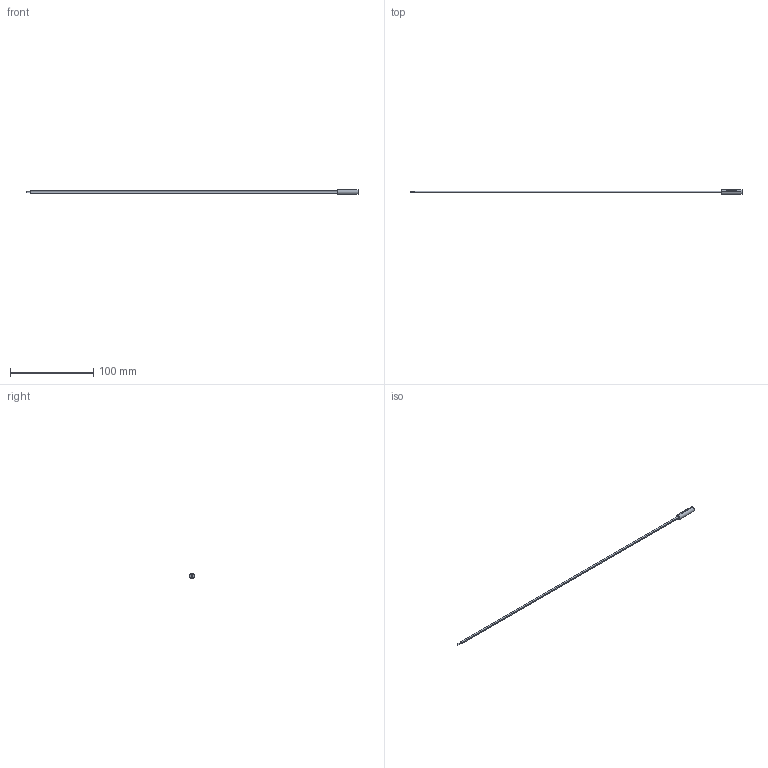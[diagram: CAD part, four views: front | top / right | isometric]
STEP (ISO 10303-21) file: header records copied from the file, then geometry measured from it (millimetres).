
FILE_DESCRIPTION (( 'STEP AP214' ), '1' );
FILE_NAME ('NTC 2381 641 46104 Thermistor Pipe_03 Vishay (RS).STEP', '2012-04-03T13:34:48', ( 'Vishay Intertechnology, Inc.' ), ( 'Vishay Intertechnology, Inc.' ), 'SwSTEP 2.0', 'SolidWorks 2012', '' );
FILE_SCHEMA (( 'AUTOMOTIVE_DESIGN' ));
Length unit declared in the file: millimetre
Products named in the file (1): NTC 2381 641 46104 Thermistor Pipe_03 Vishay (RS)
Bounding box: 400 x 6 x 6 mm (x, y, z)
Volume: 2017.6 mm3; surface area: 3829.6 mm2
Topology: 1 solids, 1 shells, 63 faces, 379 edges, 368 vertices
Faces by surface type: cylinder 56, plane 7
Entity records: 6370 total; most frequent: CARTESIAN_POINT 3111, ORIENTED_EDGE 758, DIRECTION 403, EDGE_CURVE 379, VERTEX_POINT 368, B_SPLINE_CURVE_WITH_KNOTS 191, AXIS2_PLACEMENT_3D 151, EDGE_LOOP 113
